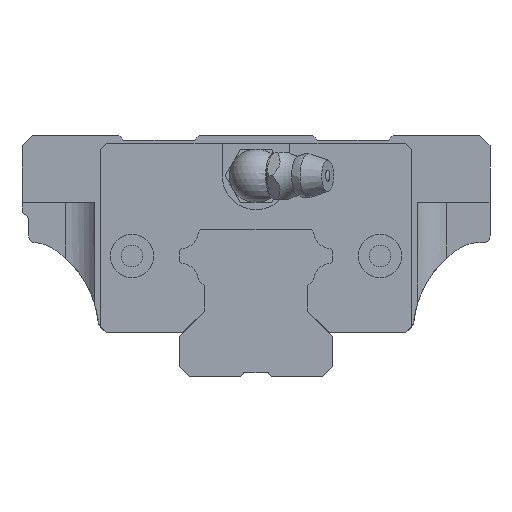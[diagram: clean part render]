
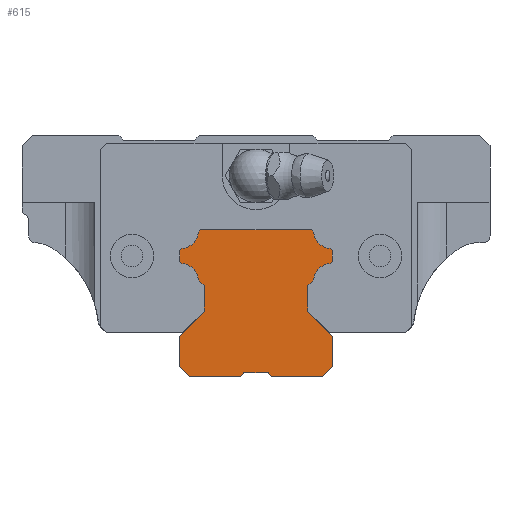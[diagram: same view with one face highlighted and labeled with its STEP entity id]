
A CAD part, front view. The second image highlights one B-rep face of the part: STEP entity #615.
In plain terms, the highlighted planar face has unit normal (0, -1, 0).
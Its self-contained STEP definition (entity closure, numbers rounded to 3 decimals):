
#397=CIRCLE('',#4261,2.65);
#399=CIRCLE('',#4267,2.65);
#405=CIRCLE('',#4277,2.65);
#407=CIRCLE('',#4283,2.65);
#615=ADVANCED_FACE('',(#962),#772,.T.);
#772=PLANE('',#4295);
#962=FACE_OUTER_BOUND('',#1213,.T.);
#1213=EDGE_LOOP('',(#2241,#2242,#2243,#2244,#2245,#2246,#2247,#2248,#2249,
#2250,#2251,#2252,#2253,#2254,#2255,#2256,#2257,#2258,#2259,#2260,#2261,
#2262,#2263,#2264,#2265,#2266,#2267,#2268));
#2241=ORIENTED_EDGE('',*,*,#3136,.F.);
#2242=ORIENTED_EDGE('',*,*,#3216,.F.);
#2243=ORIENTED_EDGE('',*,*,#3132,.F.);
#2244=ORIENTED_EDGE('',*,*,#3213,.F.);
#2245=ORIENTED_EDGE('',*,*,#3211,.F.);
#2246=ORIENTED_EDGE('',*,*,#3209,.F.);
#2247=ORIENTED_EDGE('',*,*,#3206,.F.);
#2248=ORIENTED_EDGE('',*,*,#3203,.F.);
#2249=ORIENTED_EDGE('',*,*,#3200,.F.);
#2250=ORIENTED_EDGE('',*,*,#3197,.F.);
#2251=ORIENTED_EDGE('',*,*,#3194,.F.);
#2252=ORIENTED_EDGE('',*,*,#3191,.F.);
#2253=ORIENTED_EDGE('',*,*,#3188,.F.);
#2254=ORIENTED_EDGE('',*,*,#3185,.F.);
#2255=ORIENTED_EDGE('',*,*,#3182,.F.);
#2256=ORIENTED_EDGE('',*,*,#3179,.F.);
#2257=ORIENTED_EDGE('',*,*,#3176,.F.);
#2258=ORIENTED_EDGE('',*,*,#3173,.F.);
#2259=ORIENTED_EDGE('',*,*,#3166,.F.);
#2260=ORIENTED_EDGE('',*,*,#3163,.F.);
#2261=ORIENTED_EDGE('',*,*,#3160,.F.);
#2262=ORIENTED_EDGE('',*,*,#3157,.F.);
#2263=ORIENTED_EDGE('',*,*,#3154,.F.);
#2264=ORIENTED_EDGE('',*,*,#3151,.F.);
#2265=ORIENTED_EDGE('',*,*,#3148,.F.);
#2266=ORIENTED_EDGE('',*,*,#3145,.F.);
#2267=ORIENTED_EDGE('',*,*,#3142,.F.);
#2268=ORIENTED_EDGE('',*,*,#3139,.F.);
#2620=VERTEX_POINT('',#6638);
#2621=VERTEX_POINT('',#6640);
#2624=VERTEX_POINT('',#6647);
#2625=VERTEX_POINT('',#6649);
#2627=VERTEX_POINT('',#6655);
#2629=VERTEX_POINT('',#6661);
#2631=VERTEX_POINT('',#6667);
#2633=VERTEX_POINT('',#6673);
#2635=VERTEX_POINT('',#6679);
#2637=VERTEX_POINT('',#6685);
#2639=VERTEX_POINT('',#6691);
#2641=VERTEX_POINT('',#6697);
#2643=VERTEX_POINT('',#6703);
#2645=VERTEX_POINT('',#6709);
#2651=VERTEX_POINT('',#6723);
#2653=VERTEX_POINT('',#6729);
#2655=VERTEX_POINT('',#6735);
#2657=VERTEX_POINT('',#6741);
#2659=VERTEX_POINT('',#6747);
#2661=VERTEX_POINT('',#6753);
#2663=VERTEX_POINT('',#6759);
#2665=VERTEX_POINT('',#6765);
#2667=VERTEX_POINT('',#6771);
#2669=VERTEX_POINT('',#6777);
#2671=VERTEX_POINT('',#6783);
#2673=VERTEX_POINT('',#6789);
#2674=VERTEX_POINT('',#6794);
#2675=VERTEX_POINT('',#6798);
#3132=EDGE_CURVE('',#2620,#2621,#3511,.T.);
#3136=EDGE_CURVE('',#2624,#2625,#3515,.T.);
#3139=EDGE_CURVE('',#2625,#2627,#3518,.T.);
#3142=EDGE_CURVE('',#2627,#2629,#3521,.T.);
#3145=EDGE_CURVE('',#2629,#2631,#3524,.T.);
#3148=EDGE_CURVE('',#2631,#2633,#3527,.T.);
#3151=EDGE_CURVE('',#2633,#2635,#397,.T.);
#3154=EDGE_CURVE('',#2635,#2637,#3531,.T.);
#3157=EDGE_CURVE('',#2637,#2639,#3534,.T.);
#3160=EDGE_CURVE('',#2639,#2641,#3537,.T.);
#3163=EDGE_CURVE('',#2641,#2643,#399,.T.);
#3166=EDGE_CURVE('',#2643,#2645,#3541,.T.);
#3173=EDGE_CURVE('',#2645,#2651,#3544,.T.);
#3176=EDGE_CURVE('',#2651,#2653,#3547,.T.);
#3179=EDGE_CURVE('',#2653,#2655,#405,.T.);
#3182=EDGE_CURVE('',#2655,#2657,#3551,.T.);
#3185=EDGE_CURVE('',#2657,#2659,#3554,.T.);
#3188=EDGE_CURVE('',#2659,#2661,#3557,.T.);
#3191=EDGE_CURVE('',#2661,#2663,#407,.T.);
#3194=EDGE_CURVE('',#2663,#2665,#3561,.T.);
#3197=EDGE_CURVE('',#2665,#2667,#3564,.T.);
#3200=EDGE_CURVE('',#2667,#2669,#3567,.T.);
#3203=EDGE_CURVE('',#2669,#2671,#3570,.T.);
#3206=EDGE_CURVE('',#2671,#2673,#3573,.T.);
#3209=EDGE_CURVE('',#2673,#2674,#3576,.T.);
#3211=EDGE_CURVE('',#2674,#2675,#3578,.T.);
#3213=EDGE_CURVE('',#2675,#2620,#3580,.T.);
#3216=EDGE_CURVE('',#2621,#2624,#3583,.T.);
#3511=LINE('',#6639,#3874);
#3515=LINE('',#6648,#3878);
#3518=LINE('',#6654,#3881);
#3521=LINE('',#6660,#3884);
#3524=LINE('',#6666,#3887);
#3527=LINE('',#6672,#3890);
#3531=LINE('',#6684,#3894);
#3534=LINE('',#6690,#3897);
#3537=LINE('',#6696,#3900);
#3541=LINE('',#6708,#3904);
#3544=LINE('',#6722,#3907);
#3547=LINE('',#6728,#3910);
#3551=LINE('',#6740,#3914);
#3554=LINE('',#6746,#3917);
#3557=LINE('',#6752,#3920);
#3561=LINE('',#6764,#3924);
#3564=LINE('',#6770,#3927);
#3567=LINE('',#6776,#3930);
#3570=LINE('',#6782,#3933);
#3573=LINE('',#6788,#3936);
#3576=LINE('',#6793,#3939);
#3578=LINE('',#6797,#3941);
#3580=LINE('',#6801,#3943);
#3583=LINE('',#6807,#3946);
#3874=VECTOR('',#5210,1.);
#3878=VECTOR('',#5216,1.);
#3881=VECTOR('',#5221,1.);
#3884=VECTOR('',#5226,1.);
#3887=VECTOR('',#5231,1.);
#3890=VECTOR('',#5236,1.);
#3894=VECTOR('',#5248,1.);
#3897=VECTOR('',#5253,1.);
#3900=VECTOR('',#5258,1.);
#3904=VECTOR('',#5270,1.);
#3907=VECTOR('',#5283,1.);
#3910=VECTOR('',#5288,1.);
#3914=VECTOR('',#5300,1.);
#3917=VECTOR('',#5305,1.);
#3920=VECTOR('',#5310,1.);
#3924=VECTOR('',#5322,1.);
#3927=VECTOR('',#5327,1.);
#3930=VECTOR('',#5332,1.);
#3933=VECTOR('',#5337,1.);
#3936=VECTOR('',#5342,1.);
#3939=VECTOR('',#5347,1.);
#3941=VECTOR('',#5351,1.);
#3943=VECTOR('',#5355,1.);
#3946=VECTOR('',#5362,1.);
#4261=AXIS2_PLACEMENT_3D('',#6678,#5242,#5243);
#4267=AXIS2_PLACEMENT_3D('',#6702,#5264,#5265);
#4277=AXIS2_PLACEMENT_3D('',#6734,#5294,#5295);
#4283=AXIS2_PLACEMENT_3D('',#6758,#5316,#5317);
#4295=AXIS2_PLACEMENT_3D('',#6810,#5366,#5367);
#5210=DIRECTION('',(-0.707,0.,-0.707));
#5216=DIRECTION('',(-0.707,0.,0.707));
#5221=DIRECTION('',(0.,0.,1.));
#5226=DIRECTION('',(0.707,0.,0.707));
#5231=DIRECTION('',(0.,0.,1.));
#5236=DIRECTION('',(-0.707,0.,0.707));
#5242=DIRECTION('',(0.,-1.,0.));
#5243=DIRECTION('',(1.,0.,0.));
#5248=DIRECTION('',(-0.707,0.,0.707));
#5253=DIRECTION('',(0.,0.,1.));
#5258=DIRECTION('',(0.707,0.,0.707));
#5264=DIRECTION('',(0.,-1.,0.));
#5265=DIRECTION('',(1.,0.,0.));
#5270=DIRECTION('',(0.707,0.,0.707));
#5283=DIRECTION('',(1.,0.,0.));
#5288=DIRECTION('',(0.707,0.,-0.707));
#5294=DIRECTION('',(0.,-1.,0.));
#5295=DIRECTION('',(1.,0.,0.));
#5300=DIRECTION('',(0.707,0.,-0.707));
#5305=DIRECTION('',(0.,0.,-1.));
#5310=DIRECTION('',(-0.707,0.,-0.707));
#5316=DIRECTION('',(0.,-1.,0.));
#5317=DIRECTION('',(1.,0.,0.));
#5322=DIRECTION('',(-0.707,0.,-0.707));
#5327=DIRECTION('',(0.,0.,-1.));
#5332=DIRECTION('',(0.707,0.,-0.707));
#5337=DIRECTION('',(0.,0.,-1.));
#5342=DIRECTION('',(-0.707,0.,-0.707));
#5347=DIRECTION('',(-1.,0.,0.));
#5351=DIRECTION('',(-0.707,0.,0.707));
#5355=DIRECTION('',(-1.,0.,0.));
#5362=DIRECTION('',(-1.,0.,0.));
#5366=DIRECTION('',(0.,-1.,0.));
#5367=DIRECTION('',(0.,0.,-1.));
#6638=CARTESIAN_POINT('',(-1.8,-110.,0.5));
#6639=CARTESIAN_POINT('',(-1.8,-110.,0.5));
#6640=CARTESIAN_POINT('',(-2.3,-110.,0.));
#6647=CARTESIAN_POINT('',(-10.,-110.,0.));
#6648=CARTESIAN_POINT('',(-10.,-110.,0.));
#6649=CARTESIAN_POINT('',(-11.5,-110.,1.5));
#6654=CARTESIAN_POINT('',(-11.5,-110.,1.5));
#6655=CARTESIAN_POINT('',(-11.5,-110.,6.001));
#6660=CARTESIAN_POINT('',(-11.5,-110.,6.001));
#6661=CARTESIAN_POINT('',(-7.73,-110.,9.771));
#6666=CARTESIAN_POINT('',(-7.73,-110.,9.771));
#6667=CARTESIAN_POINT('',(-7.73,-110.,13.529));
#6672=CARTESIAN_POINT('',(-7.73,-110.,13.529));
#6673=CARTESIAN_POINT('',(-8.627,-110.,14.426));
#6678=CARTESIAN_POINT('',(-11.27,-110.,14.23));
#6679=CARTESIAN_POINT('',(-11.074,-110.,16.873));
#6684=CARTESIAN_POINT('',(-11.074,-110.,16.873));
#6685=CARTESIAN_POINT('',(-11.43,-110.,17.229));
#6690=CARTESIAN_POINT('',(-11.43,-110.,17.229));
#6691=CARTESIAN_POINT('',(-11.43,-110.,18.771));
#6696=CARTESIAN_POINT('',(-11.43,-110.,18.771));
#6697=CARTESIAN_POINT('',(-11.074,-110.,19.127));
#6702=CARTESIAN_POINT('',(-11.27,-110.,21.77));
#6703=CARTESIAN_POINT('',(-8.627,-110.,21.574));
#6708=CARTESIAN_POINT('',(-8.627,-110.,21.574));
#6709=CARTESIAN_POINT('',(-8.271,-110.,21.93));
#6722=CARTESIAN_POINT('',(-8.271,-110.,21.93));
#6723=CARTESIAN_POINT('',(8.271,-110.,21.93));
#6728=CARTESIAN_POINT('',(8.271,-110.,21.93));
#6729=CARTESIAN_POINT('',(8.627,-110.,21.574));
#6734=CARTESIAN_POINT('',(11.27,-110.,21.77));
#6735=CARTESIAN_POINT('',(11.074,-110.,19.127));
#6740=CARTESIAN_POINT('',(11.074,-110.,19.127));
#6741=CARTESIAN_POINT('',(11.43,-110.,18.771));
#6746=CARTESIAN_POINT('',(11.43,-110.,18.771));
#6747=CARTESIAN_POINT('',(11.43,-110.,17.229));
#6752=CARTESIAN_POINT('',(11.43,-110.,17.229));
#6753=CARTESIAN_POINT('',(11.074,-110.,16.873));
#6758=CARTESIAN_POINT('',(11.27,-110.,14.23));
#6759=CARTESIAN_POINT('',(8.627,-110.,14.426));
#6764=CARTESIAN_POINT('',(8.627,-110.,14.426));
#6765=CARTESIAN_POINT('',(7.73,-110.,13.529));
#6770=CARTESIAN_POINT('',(7.73,-110.,13.529));
#6771=CARTESIAN_POINT('',(7.73,-110.,9.771));
#6776=CARTESIAN_POINT('',(7.73,-110.,9.771));
#6777=CARTESIAN_POINT('',(11.5,-110.,6.001));
#6782=CARTESIAN_POINT('',(11.5,-110.,6.001));
#6783=CARTESIAN_POINT('',(11.5,-110.,1.5));
#6788=CARTESIAN_POINT('',(11.5,-110.,1.5));
#6789=CARTESIAN_POINT('',(10.,-110.,0.));
#6793=CARTESIAN_POINT('',(10.,-110.,0.));
#6794=CARTESIAN_POINT('',(2.3,-110.,0.));
#6797=CARTESIAN_POINT('',(2.3,-110.,0.));
#6798=CARTESIAN_POINT('',(1.8,-110.,0.5));
#6801=CARTESIAN_POINT('',(1.8,-110.,0.5));
#6807=CARTESIAN_POINT('',(-2.3,-110.,0.));
#6810=CARTESIAN_POINT('',(-11.27,-110.,14.23));
